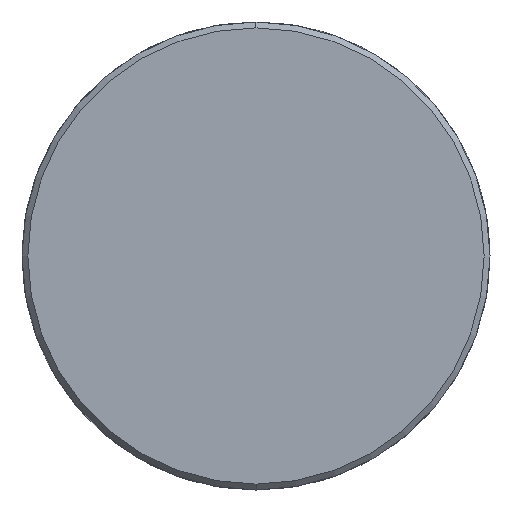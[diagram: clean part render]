
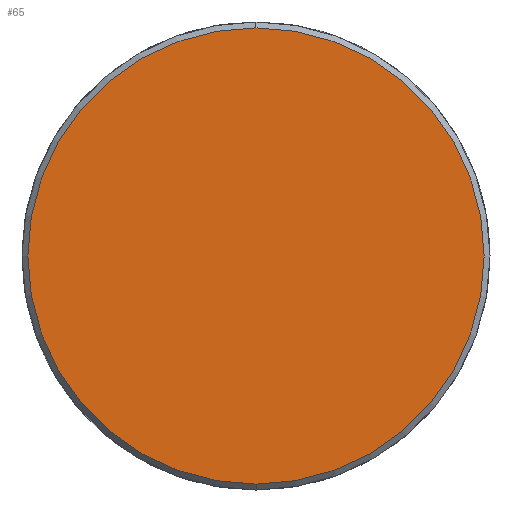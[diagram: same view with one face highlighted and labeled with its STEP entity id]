
A CAD part, left-side view. The second image highlights one B-rep face of the part: STEP entity #65.
In plain terms, the highlighted planar face has unit normal (-1, 0, 0).
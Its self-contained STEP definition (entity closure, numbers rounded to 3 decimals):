
#65 = ADVANCED_FACE ( 'NONE', ( #5210 ), #6787, .T. ) ;
#191 = AXIS2_PLACEMENT_3D ( 'NONE', #5266, #5256, #5251 ) ;
#978 = AXIS2_PLACEMENT_3D ( 'NONE', #6739, #6737, #6729 ) ;
#1695 = EDGE_LOOP ( 'NONE', ( #4145, #4144 ) ) ;
#1755 = EDGE_CURVE ( 'NONE', #2480, #6674, #5919, .T. ) ;
#2480 = VERTEX_POINT ( 'NONE', #3927 ) ;
#2787 = EDGE_CURVE ( 'NONE', #6674, #2480, #4956, .T. ) ;
#3431 = DIRECTION ( 'NONE',  ( 0., 0., -1. ) ) ;
#3437 = DIRECTION ( 'NONE',  ( 1., 0., 0. ) ) ;
#3447 = CARTESIAN_POINT ( 'NONE',  ( 0., 0., 0. ) ) ;
#3927 = CARTESIAN_POINT ( 'NONE',  ( 0., 0., -19.5 ) ) ;
#4144 = ORIENTED_EDGE ( 'NONE', *, *, #2787, .F. ) ;
#4145 = ORIENTED_EDGE ( 'NONE', *, *, #1755, .F. ) ;
#4956 = CIRCLE ( 'NONE', #5731, 19.5 ) ;
#5210 = FACE_OUTER_BOUND ( 'NONE', #1695, .T. ) ;
#5251 = DIRECTION ( 'NONE',  ( 0., 0., -1. ) ) ;
#5256 = DIRECTION ( 'NONE',  ( 1., 0., 0. ) ) ;
#5266 = CARTESIAN_POINT ( 'NONE',  ( 0., 0., 0. ) ) ;
#5731 = AXIS2_PLACEMENT_3D ( 'NONE', #3447, #3437, #3431 ) ;
#5919 = CIRCLE ( 'NONE', #191, 19.5 ) ;
#6674 = VERTEX_POINT ( 'NONE', #6780 ) ;
#6729 = DIRECTION ( 'NONE',  ( 0., 0., 1. ) ) ;
#6737 = DIRECTION ( 'NONE',  ( -1., 0., 0. ) ) ;
#6739 = CARTESIAN_POINT ( 'NONE',  ( 0., 0., 0. ) ) ;
#6780 = CARTESIAN_POINT ( 'NONE',  ( 0., 0., 19.5 ) ) ;
#6787 = PLANE ( 'NONE',  #978 ) ;
